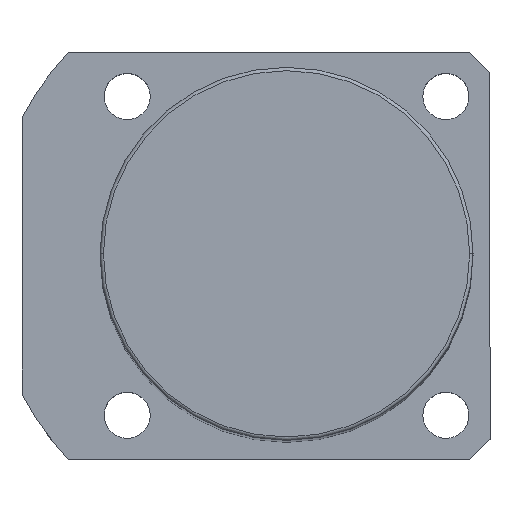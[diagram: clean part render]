
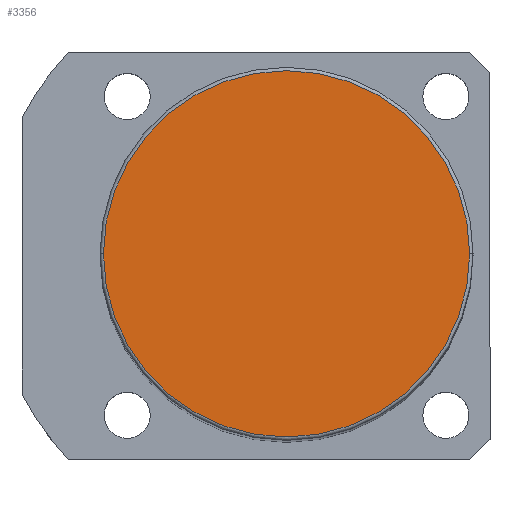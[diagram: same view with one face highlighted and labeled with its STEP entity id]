
A CAD part, top view. The second image highlights one B-rep face of the part: STEP entity #3356.
In plain terms, the highlighted planar face has unit normal (0, 0, 1).
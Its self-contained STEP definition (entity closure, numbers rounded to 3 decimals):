
#144 = CARTESIAN_POINT ( 'NONE',  ( -27., 0., 181. ) ) ;
#222 = DIRECTION ( 'NONE',  ( 0., 0., 1. ) ) ;
#432 = CARTESIAN_POINT ( 'NONE',  ( 0., 0., 181. ) ) ;
#1118 = CIRCLE ( 'NONE', #2784, 27. ) ;
#1130 = CARTESIAN_POINT ( 'NONE',  ( 27., 0., 181. ) ) ;
#1235 = AXIS2_PLACEMENT_3D ( 'NONE', #4378, #2000, #4786 ) ;
#1312 = AXIS2_PLACEMENT_3D ( 'NONE', #432, #1653, #4428 ) ;
#1429 = ORIENTED_EDGE ( 'NONE', *, *, #2489, .T. ) ;
#1635 = VERTEX_POINT ( 'NONE', #144 ) ;
#1637 = PLANE ( 'NONE',  #1312 ) ;
#1653 = DIRECTION ( 'NONE',  ( 0., 0., 1. ) ) ;
#2000 = DIRECTION ( 'NONE',  ( 0., 0., 1. ) ) ;
#2274 = ORIENTED_EDGE ( 'NONE', *, *, #4816, .T. ) ;
#2311 = FACE_OUTER_BOUND ( 'NONE', #4957, .T. ) ;
#2489 = EDGE_CURVE ( 'NONE', #1635, #4238, #4917, .T. ) ;
#2642 = CARTESIAN_POINT ( 'NONE',  ( 0., 0., 181. ) ) ;
#2784 = AXIS2_PLACEMENT_3D ( 'NONE', #2642, #222, #3027 ) ;
#3027 = DIRECTION ( 'NONE',  ( 1., 0., 0. ) ) ;
#3356 = ADVANCED_FACE ( 'NONE', ( #2311 ), #1637, .T. ) ;
#4238 = VERTEX_POINT ( 'NONE', #1130 ) ;
#4378 = CARTESIAN_POINT ( 'NONE',  ( 0., 0., 181. ) ) ;
#4428 = DIRECTION ( 'NONE',  ( 1., 0., 0. ) ) ;
#4786 = DIRECTION ( 'NONE',  ( 1., 0., 0. ) ) ;
#4816 = EDGE_CURVE ( 'NONE', #4238, #1635, #1118, .T. ) ;
#4917 = CIRCLE ( 'NONE', #1235, 27. ) ;
#4957 = EDGE_LOOP ( 'NONE', ( #2274, #1429 ) ) ;
